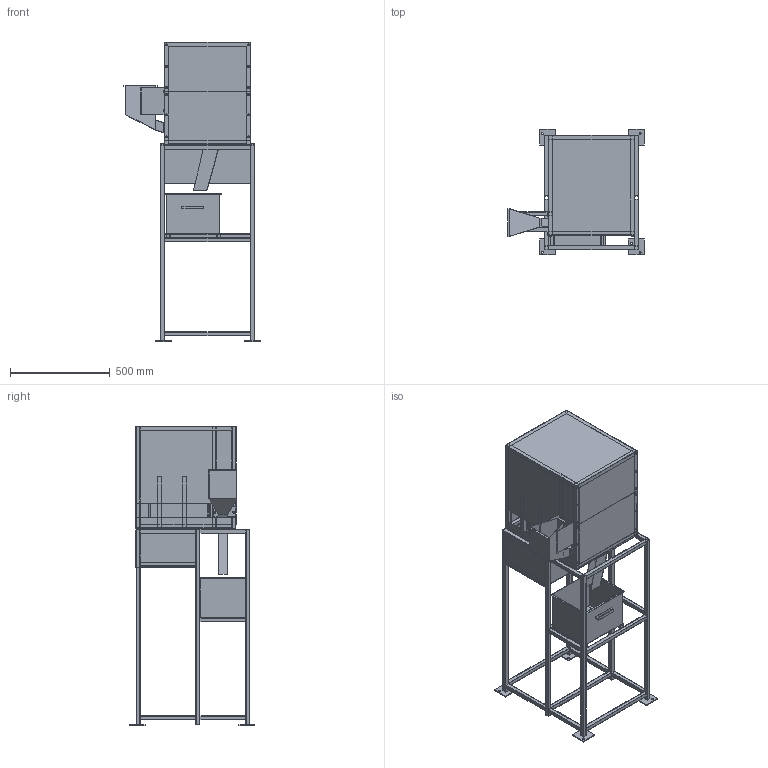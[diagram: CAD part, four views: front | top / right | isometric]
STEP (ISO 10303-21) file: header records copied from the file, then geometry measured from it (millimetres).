
FILE_DESCRIPTION(('FreeCAD Model'),'2;1');
FILE_NAME('Open CASCADE Shape Model','2026-11-21T15:35:45',('Author'),( ''),'Open CASCADE STEP processor 7.9','FreeCAD','Unknown');
FILE_SCHEMA(('AUTOMOTIVE_DESIGN { 1 0 10303 214 1 1 1 1 }'));
Length unit declared in the file: millimetre
Products named in the file (65): prensa_baru_motorizada_v1; 01_Porticos_360deg_Guia_U_e_Cantoneira; Chapa de Mesa Estrutural 1/4 pol (340x100 mm); Portico Traseiro Soldado (2x1/4 pol); Portico Frontal Soldado (360 deg livre, s/ batentes); 4x Espacadores Tubulares M10 Realocados; Suporte Cantoneira V 90 graus + Pes Dobrados; Guia Linear Chapa U Parafusavel 4x M8; 4x Parafusos Sextavados M8x20 + Porcas; 4x Tiras Planas Substituiveis de UHMW; 4x Buchas de Catalogo O4 (12x14) e O2 (20x23); Pino Liso D12 mm c/ Canaletas O-Ring de O4; 2x Aneis O-Ring NBR 70 (10x1.8 mm) de O4; 02_Eixo_O2_20rpm_Manivela_L2_e_Came_Extrator; Eixo Principal O2 D20 mm (20 RPM, SAE 1045); Manivela L2 = 28.98 mm (K = 1.5 Grashof Classe I); Came de Disco 3-4-5 do Extrator Automatico (R_base=52 mm); Bucha Padrao 12x14 mm da Junta A; Pino Liso D12 mm c/ Canaletas O-Ring da Junta A; 2x Aneis O-Ring NBR 70 (10x1.8 mm) da Junta A; 03_Elo3_Biela_Acopladora_L3 (57.96 mm); Biela L3 = 57.96 mm (Barra Chata 1x1/4 pol); 2x Buchas Padrao 12x14 mm da Biela L3; 04_Elo4_Balancim_Principal_L4 (111.96 mm); Balancim L4 = 111.96 mm (Barra Chata 1.1/2x1/2 pol); 2x Buchas Padrao 12x14 mm do Balancim L4; 05_Elo5_Garfo_Duplo_L5 (111.96 mm); Garfo Duplo L5 = 111.96 mm; 4x Buchas 12x14 mm do Garfo L5; Pino Liso D12 mm c/ Canaletas O-Ring da Junta B; 2x Aneis O-Ring NBR 70 (10x1.8 mm) da Junta B; 06_Pistao_Soldado_1pol_e_Navalha_SAE5160; Embolo Barra Quadrada 1x1 pol Soldado; Navalha Reta Cunha 30 graus (SAE 5160); 2x Parafusos Sextavados M6x20 + Porcas; Bucha 12x14 mm do Olhal O5; Pino Liso D12 mm c/ Canaletas O-Ring de O5; 2x Aneis O-Ring NBR 70 de O5; 07_Motor_WEG_05cv_Polias_Volante_400rpm_e_Redutor_20_1; Motor Eletrico WEG W22 0.5 cv 4P 1730 rpm IEC 71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
Assembly tree (64 placements, depth 3):
  prensa_baru_motorizada_v1
    01_Porticos_360deg_Guia_U_e_Cantoneira
      Chapa de Mesa Estrutural 1/4 pol (340x100 mm)
      Portico Traseiro Soldado (2x1/4 pol)
      Portico Frontal Soldado (360 deg livre, s/ batentes)
      4x Espacadores Tubulares M10 Realocados
      Suporte Cantoneira V 90 graus + Pes Dobrados
      Guia Linear Chapa U Parafusavel 4x M8
      4x Parafusos Sextavados M8x20 + Porcas
      4x Tiras Planas Substituiveis de UHMW
      4x Buchas de Catalogo O4 (12x14) e O2 (20x23)
      Pino Liso D12 mm c/ Canaletas O-Ring de O4
      2x Aneis O-Ring NBR 70 (10x1.8 mm) de O4
    02_Eixo_O2_20rpm_Manivela_L2_e_Came_Extrator
      Eixo Principal O2 D20 mm (20 RPM, SAE 1045)
      Manivela L2 = 28.98 mm (K = 1.5 Grashof Classe I)
      Came de Disco 3-4-5 do Extrator Automatico (R_base=52 mm)
      Bucha Padrao 12x14 mm da Junta A
      Pino Liso D12 mm c/ Canaletas O-Ring da Junta A
      2x Aneis O-Ring NBR 70 (10x1.8 mm) da Junta A
    03_Elo3_Biela_Acopladora_L3 (57.96 mm)
      Biela L3 = 57.96 mm (Barra Chata 1x1/4 pol)
      2x Buchas Padrao 12x14 mm da Biela L3
    04_Elo4_Balancim_Principal_L4 (111.96 mm)
      Balancim L4 = 111.96 mm (Barra Chata 1.1/2x1/2 pol)
      2x Buchas Padrao 12x14 mm do Balancim L4
    05_Elo5_Garfo_Duplo_L5 (111.96 mm)
      Garfo Duplo L5 = 111.96 mm
      4x Buchas 12x14 mm do Garfo L5
      Pino Liso D12 mm c/ Canaletas O-Ring da Junta B
      2x Aneis O-Ring NBR 70 (10x1.8 mm) da Junta B
    06_Pistao_Soldado_1pol_e_Navalha_SAE5160
      Embolo Barra Quadrada 1x1 pol Soldado
      Navalha Reta Cunha 30 graus (SAE 5160)
      2x Parafusos Sextavados M6x20 + Porcas
      Bucha 12x14 mm do Olhal O5
      Pino Liso D12 mm c/ Canaletas O-Ring de O5
      2x Aneis O-Ring NBR 70 de O5
    07_Motor_WEG_05cv_Polias_Volante_400rpm_e_Redutor_20_1
      Motor Eletrico WEG W22 0.5 cv 4P 1730 rpm IEC 71
      Polia Motora Comercial Perfil A D75 mm (1730 rpm)
      Polia Movida Comercial Perfil A D325 mm (399.2 rpm)
      Correia Trapezoidal em V Perfil A (A-56)
      Volante de Inercia em Aro Aco ABNT 1020 (D300/220x40 mm @ 400 rpm)
      Eixo Intermediario D20 mm SAE 1045 (400 rpm)
      2x Mancais F204 (O2) + 2x Mancais UCP204 (Eixo 400 rpm)
      Redutor Helicoidal Comercial 20:1 (eta=0.95)
      Base Tensora Deslizante do Motor (Chapa 1/4 pol)
    08_Cavalete_NR12_Ampliado_Moega_Coletor_e_Extrator_Sincronizado
      Cavalete 1.50 m + Gabinete NR-12 Ampliado (Metalon 20x20)
      4x Sapatas de Piso 80x80x4.76 mm c/ 8 Furos D10.5 mm
      Fechamento NR-12 c/ Aletas Ventilacao Motor (#18)
      Visor Frontal Transparente NR-12 (Policarbonato 2.0 mm)
      Calha Alimentacao Segura Y=0 (42x48 mm)
      Moega Dedicada de Alimentacao (#18, 4x M6)
      Parafusos M6/M8 do Visor, Calha e Moega
      Calha Inclinada de Descarga Sob a Mesa (#18)
      Reservatorio Frontal Removivel 12.3 L (#18)
      Mancais Eixo Ejetor + Pivo O_seg + Ancora Mola
      Alavanca Seguidora do Came c/ Rolete Ø19 mm
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Bounding box: 685 x 630 x 1498.72 mm (x, y, z)
Volume: 13209087.3 mm3; surface area: 9295560.8 mm2
Topology: 146 solids, 196 shells, 2363 faces, 5548 edges, 3611 vertices
Faces by surface type: plane 1976, cylinder 360, torus 19, bspline 8
Full cylindrical faces by diameter (mm): 2 x2, 5.9 x28, 6.1 x44, 6.3 x8, 7.9 x16, 8.05 x1, 8.1 x4, 8.2 x11, 8.4 x8, 9 x14, 9.6 x12, 9.9 x4, 10 x4, 10.2 x8, 10.36 x8, 10.4 x4, 10.5 x8, 11.96 x12, 12 x1, 12.04 x12, 12.1 x12, 13 x3, 13.6 x8, 14 x14, 14.04 x13, 15 x2, 16 x9, 19 x14, 20 x3, 20.02 x1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
Entity records: 70204 total; most frequent: CARTESIAN_POINT 11902, DIRECTION 11160, ORIENTED_EDGE 11094, EDGE_CURVE 5545, LINE 4700, VECTOR 4700, VERTEX_POINT 3612, AXIS2_PLACEMENT_3D 3230
